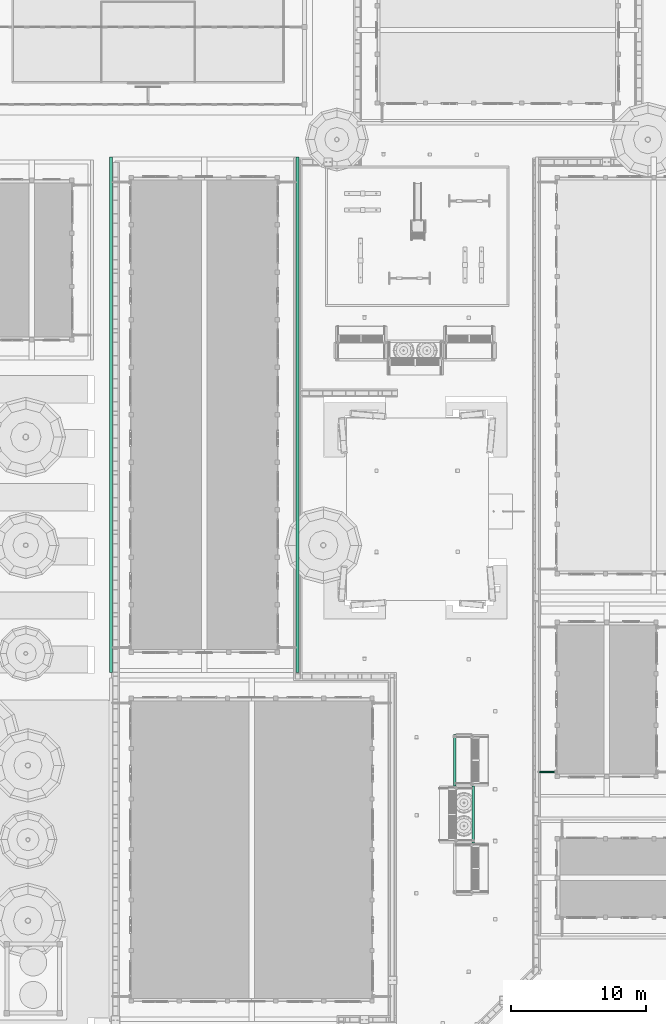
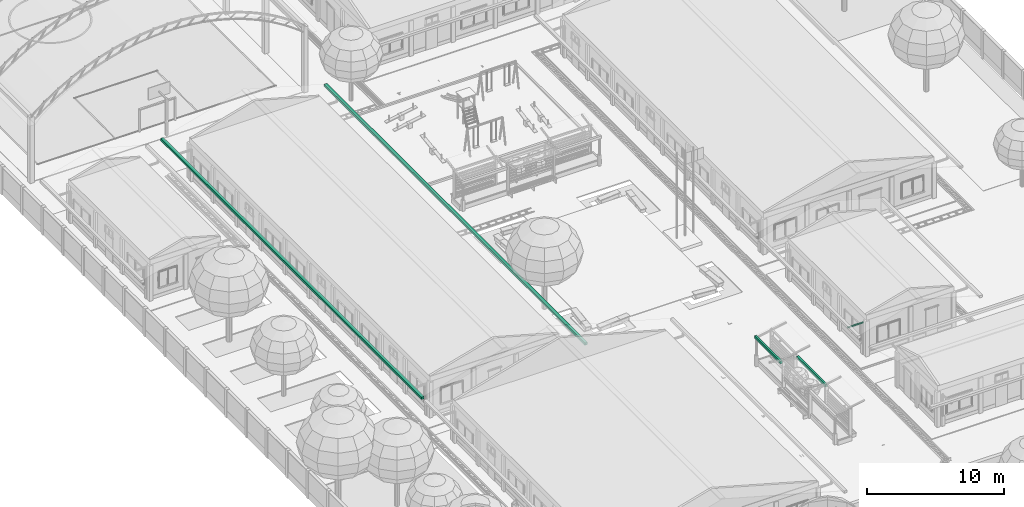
# One storey, part 94 of 166: 5 flow segments.
"""IFC2X3 building model written with IfcOpenShell, lengths in metres."""

from ifc_helpers import new_model, si_unit, origin, origin_with_axes, place, context, subcontext, project, spatial, faceted_brep, element, save


model = new_model("IFC2X3")

# Units and contexts
model_context = context("Model", 3, precision=1e-05, world=origin_with_axes())
body_context = subcontext(model_context, "Body", "Model", "MODEL_VIEW")
ifc_project = project(units=[si_unit("LENGTHUNIT", "METRE"), si_unit("AREAUNIT", "SQUARE_METRE"), si_unit("VOLUMEUNIT", "CUBIC_METRE"), si_unit("PLANEANGLEUNIT", "RADIAN")], contexts=[model_context])

# Site, building, storey
site_placement = place(None, origin_with_axes())
site = spatial("IfcSite", under=ifc_project, at=site_placement, Name="Predio Los Mangos - Morales, San Martín", CompositionType="ELEMENT")
building_placement = place(site_placement, origin())
building = spatial("IfcBuilding", under=site, at=building_placement, Name="Hogar de Refugio Temporal", CompositionType="ELEMENT")
storey_placement = place(building_placement, origin())
storey = spatial("IfcBuildingStorey", under=building, at=storey_placement, Name="NIVEL 1 (NPT +0.00)", CompositionType="ELEMENT", Elevation=0.0)

# Flow segments
flow_segment_1_placement = place(storey_placement, origin())
element("IfcFlowSegment", 1, at=flow_segment_1_placement, inside=storey, Name="E-04_canaleta", ObjectType="Canaleta", context=body_context, shape_type="Brep", body=[
    faceted_brep([(12.18, 50.6, 3.13), (12.18, 88.7, 3.13), (12.42, 88.7, 3.13), (12.42, 50.6, 3.13), (12.18, 50.6, 3.33), (12.42, 50.6, 3.33), (12.42, 88.7, 3.33), (12.18, 88.7, 3.33)], [[[0, 1, 2, 3]], [[4, 5, 6, 7]], [[0, 3, 5, 4]], [[3, 2, 6, 5]], [[2, 1, 7, 6]], [[1, 0, 4, 7]]]),
])
flow_segment_2_placement = place(storey_placement, origin())
element("IfcFlowSegment", 2, at=flow_segment_2_placement, inside=storey, Name="E-04_canaleta", ObjectType="Canaleta", context=body_context, shape_type="Brep", body=[
    faceted_brep([(25.98, 50.6, 3.13), (25.98, 88.7, 3.13), (26.22, 88.7, 3.13), (26.22, 50.6, 3.13), (25.98, 50.6, 3.33), (26.22, 50.6, 3.33), (26.22, 88.7, 3.33), (25.98, 88.7, 3.33)], [[[0, 1, 2, 3]], [[4, 5, 6, 7]], [[0, 3, 5, 4]], [[3, 2, 6, 5]], [[2, 1, 7, 6]], [[1, 0, 4, 7]]]),
])
flow_segment_3_placement = place(storey_placement, origin())
element("IfcFlowSegment", 3, at=flow_segment_3_placement, inside=storey, Name="montante_desvio", ObjectType="Montante PVC 4\"", context=body_context, shape_type="Brep", body=[
    faceted_brep([(43.92, 43.25, 2.965), (45.21, 43.25, 2.965), (45.21, 43.2775, 2.9576), (43.92, 43.2775, 2.9576), (45.21, 43.2976, 2.9375), (43.92, 43.2976, 2.9375), (45.21, 43.305, 2.91), (43.92, 43.305, 2.91), (45.21, 43.2976, 2.8825), (43.92, 43.2976, 2.8825), (45.21, 43.2775, 2.8624), (43.92, 43.2775, 2.8624), (45.21, 43.25, 2.855), (43.92, 43.25, 2.855), (45.21, 43.2225, 2.8624), (43.92, 43.2225, 2.8624), (45.21, 43.2024, 2.8825), (43.92, 43.2024, 2.8825), (45.21, 43.195, 2.91), (43.92, 43.195, 2.91), (45.21, 43.2024, 2.9375), (43.92, 43.2024, 2.9375), (45.21, 43.2225, 2.9576), (43.92, 43.2225, 2.9576)], [[[0, 1, 2, 3]], [[3, 2, 4, 5]], [[5, 4, 6, 7]], [[7, 6, 8, 9]], [[9, 8, 10, 11]], [[11, 10, 12, 13]], [[13, 12, 14, 15]], [[15, 14, 16, 17]], [[17, 16, 18, 19]], [[19, 18, 20, 21]], [[2, 1, 22, 20, 18, 16, 14, 12, 10, 8, 6, 4]], [[21, 20, 22, 23]], [[23, 22, 1, 0]], [[0, 3, 5, 7, 9, 11, 13, 15, 17, 19, 21, 23]]]),
])
flow_segment_4_placement = place(storey_placement, origin())
element("IfcFlowSegment", 4, at=flow_segment_4_placement, inside=storey, Name="oc01_canaleta", ObjectType="Canaleta", context=body_context, shape_type="Brep", body=[
    faceted_brep([(39.18, 37.995, 2.49), (39.0, 37.995, 2.49), (39.0, 42.205, 2.49), (39.18, 42.205, 2.49), (39.18, 37.995, 2.71), (39.18, 42.205, 2.71), (39.0, 42.205, 2.71), (39.0, 37.995, 2.71)], [[[0, 1, 2, 3]], [[4, 5, 6, 7]], [[0, 3, 5, 4]], [[3, 2, 6, 5]], [[2, 1, 7, 6]], [[1, 0, 4, 7]]]),
])
flow_segment_5_placement = place(storey_placement, origin())
element("IfcFlowSegment", 5, at=flow_segment_5_placement, inside=storey, Name="oc01_canaleta", ObjectType="Canaleta", context=body_context, shape_type="Brep", body=[
    faceted_brep([(37.8, 42.205, 2.49), (37.62, 42.205, 2.49), (37.62, 45.995, 2.49), (37.8, 45.995, 2.49), (37.8, 42.205, 2.71), (37.8, 45.995, 2.71), (37.62, 45.995, 2.71), (37.62, 42.205, 2.71)], [[[0, 1, 2, 3]], [[4, 5, 6, 7]], [[0, 3, 5, 4]], [[3, 2, 6, 5]], [[2, 1, 7, 6]], [[1, 0, 4, 7]]]),
])

save(model, "model.ifc")
